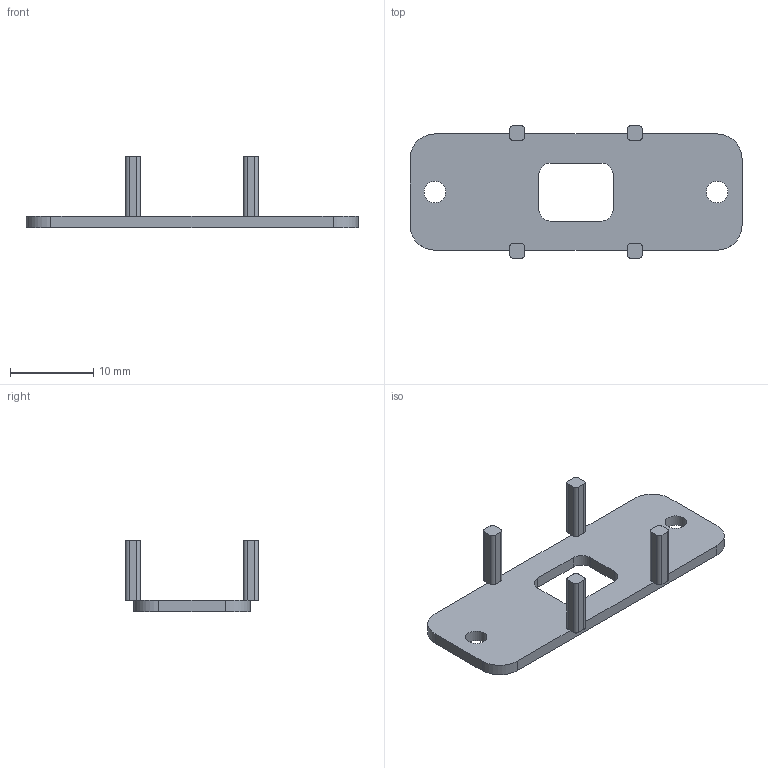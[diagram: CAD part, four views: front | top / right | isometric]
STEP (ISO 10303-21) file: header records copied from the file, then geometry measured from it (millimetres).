
FILE_DESCRIPTION(('Open CASCADE Model'),'2;1');
FILE_NAME('Open CASCADE Shape Model','2026-09-08T12:38:13',('Author'),( 'Open CASCADE'),'Open CASCADE STEP processor 7.7','Open CASCADE 7.7' ,'Unknown');
FILE_SCHEMA(('AUTOMOTIVE_DESIGN { 1 0 10303 214 1 1 1 1 }'));
Length unit declared in the file: millimetre
Products named in the file (1): Open CASCADE STEP translator 7.7 7
Bounding box: 40 x 16 x 8.65 mm (x, y, z)
Volume: 761.7 mm3; surface area: 1369.3 mm2
Topology: 1 solids, 1 shells, 60 faces, 166 edges, 108 vertices
Faces by surface type: plane 34, cylinder 26
Full cylindrical faces by diameter (mm): 2.6 x2
Entity records: 4128 total; most frequent: CARTESIAN_POINT 727, DIRECTION 662, LINE 394, VECTOR 394, ORIENTED_EDGE 332, PCURVE 332, DEFINITIONAL_REPRESENTATION 332, EDGE_CURVE 166
